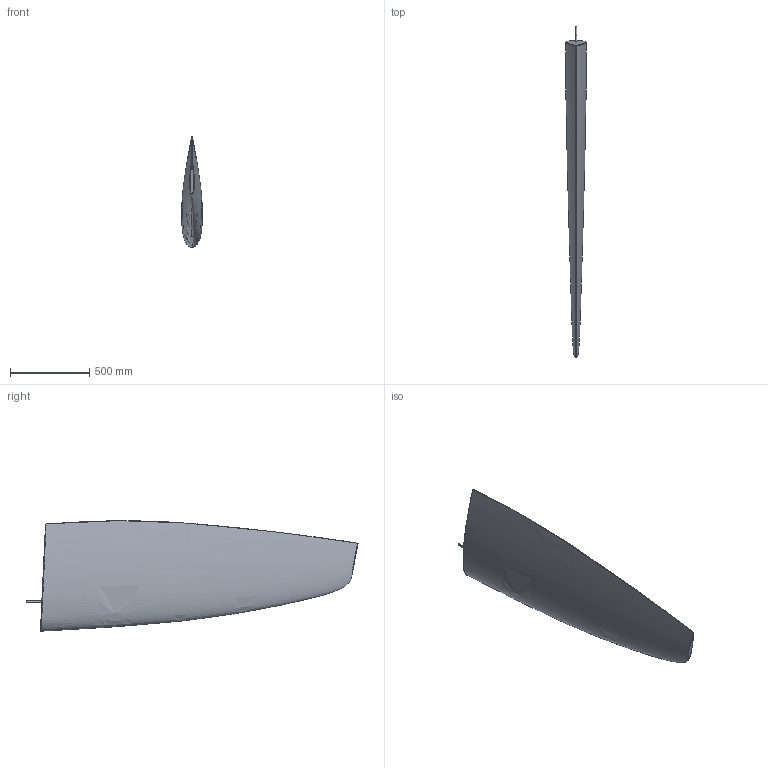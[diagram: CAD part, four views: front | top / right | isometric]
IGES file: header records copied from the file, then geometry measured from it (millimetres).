
Start section: SolidWorks IGES file using analytic representation for surfaces
Global section: file name: J:\Kartotek\Jefa Marine\GRP rudder blade\Jefa rudder blade\Rudderblade RUD46 for 42 to 50ft.IGS; native system: SolidWorks 2008; preprocessor: SolidWorks 2008; author: Klaus Jeppsen; date: 080904.134122; units: millimetre
Bounding box: 132.4 x 2098.83 x 698.16 mm (x, y, z)
Surface area: 2342072 mm2 (no closed solid volume)
Topology: 0 solids, 0 shells, 14 faces, 599 edges, 599 vertices
Faces by surface type: bspline 12, revolution 2
